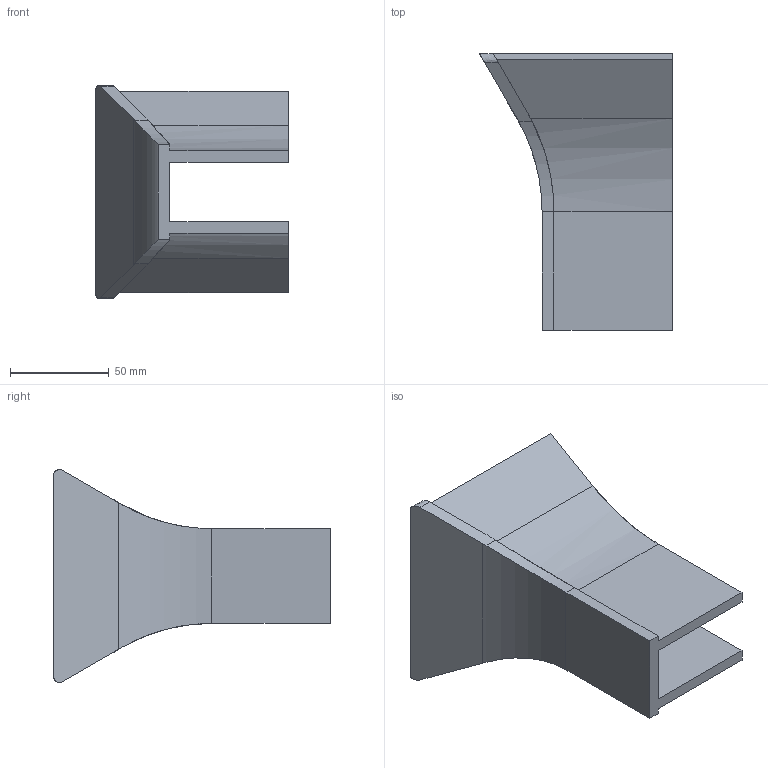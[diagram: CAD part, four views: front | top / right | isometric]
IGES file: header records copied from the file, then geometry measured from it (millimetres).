
Global section: file name: E:\UnigraphicsGraphicData\MISUMI_PRESS-PARTS\IGES\3d_cilg-60-60-30_00257_r00.igs; native system: NX V5.0; preprocessor: UGS NX IGES V5.0; author: MISUMI; date: 20110105.160246; units: millimetre
Bounding box: 97.65 x 140 x 107.89 mm (x, y, z)
Surface area: 61684.5 mm2 (no closed solid volume)
Topology: 0 solids, 0 shells, 38 faces, 214 edges, 214 vertices
Faces by surface type: bspline 38
